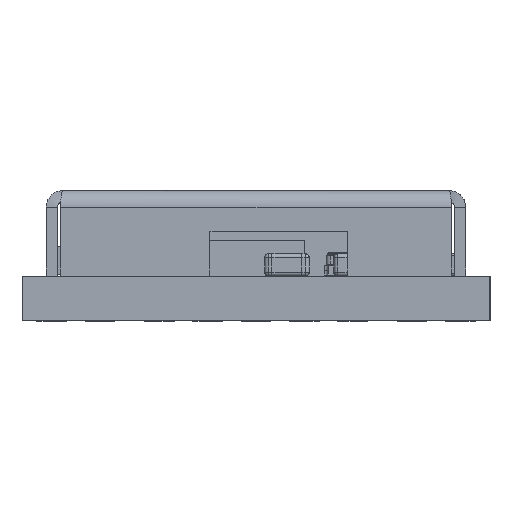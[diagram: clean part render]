
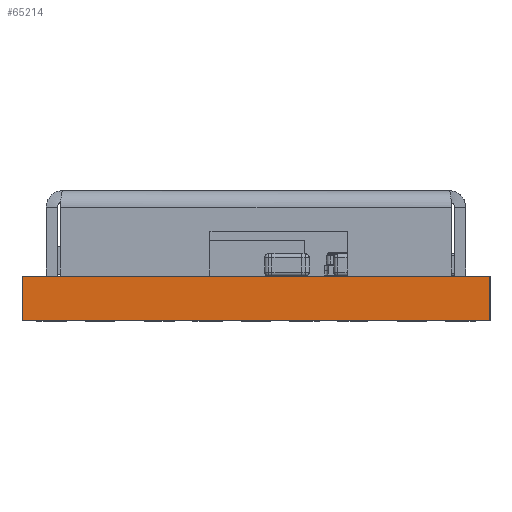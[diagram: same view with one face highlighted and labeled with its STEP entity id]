
A CAD part, left-side view. The second image highlights one B-rep face of the part: STEP entity #65214.
In plain terms, the highlighted planar face has unit normal (-1, 0, 0).
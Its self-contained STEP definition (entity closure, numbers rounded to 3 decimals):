
#374 = LINE ( 'NONE', #38441, #52603 ) ;
#2299 = EDGE_CURVE ( 'NONE', #25542, #36715, #9650, .T. ) ;
#4617 = ORIENTED_EDGE ( 'NONE', *, *, #62889, .T. ) ;
#9152 = DIRECTION ( 'NONE',  ( 0., 0., 1. ) ) ;
#9650 = LINE ( 'NONE', #48350, #51214 ) ;
#11319 = CARTESIAN_POINT ( 'NONE',  ( 0., 0., -0.599 ) ) ;
#14508 = LINE ( 'NONE', #57169, #28066 ) ;
#17529 = CARTESIAN_POINT ( 'NONE',  ( 0., 0., 0. ) ) ;
#18398 = VERTEX_POINT ( 'NONE', #11319 ) ;
#22751 = EDGE_LOOP ( 'NONE', ( #4617, #66078, #35636, #54337 ) ) ;
#25215 = DIRECTION ( 'NONE',  ( -1., 0., 0. ) ) ;
#25542 = VERTEX_POINT ( 'NONE', #38506 ) ;
#27630 = DIRECTION ( 'NONE',  ( 0., 1., 0. ) ) ;
#28066 = VECTOR ( 'NONE', #35835, 1000. ) ;
#31494 = CARTESIAN_POINT ( 'NONE',  ( 0., 0., -0.599 ) ) ;
#33063 = LINE ( 'NONE', #37012, #52666 ) ;
#35636 = ORIENTED_EDGE ( 'NONE', *, *, #2299, .F. ) ;
#35835 = DIRECTION ( 'NONE',  ( 0., 0., 1. ) ) ;
#36715 = VERTEX_POINT ( 'NONE', #47433 ) ;
#37012 = CARTESIAN_POINT ( 'NONE',  ( 0., 0., -0.599 ) ) ;
#38441 = CARTESIAN_POINT ( 'NONE',  ( 0., 0., 0. ) ) ;
#38506 = CARTESIAN_POINT ( 'NONE',  ( 0., 6.3, -0.599 ) ) ;
#47433 = CARTESIAN_POINT ( 'NONE',  ( 0., 6.3, 0. ) ) ;
#48350 = CARTESIAN_POINT ( 'NONE',  ( 0., 6.3, -0.599 ) ) ;
#51214 = VECTOR ( 'NONE', #52304, 1000. ) ;
#51780 = EDGE_CURVE ( 'NONE', #62170, #36715, #374, .T. ) ;
#52304 = DIRECTION ( 'NONE',  ( 0., 0., 1. ) ) ;
#52603 = VECTOR ( 'NONE', #27630, 1000. ) ;
#52666 = VECTOR ( 'NONE', #63594, 1000. ) ;
#54337 = ORIENTED_EDGE ( 'NONE', *, *, #60413, .F. ) ;
#57034 = FACE_OUTER_BOUND ( 'NONE', #22751, .T. ) ;
#57169 = CARTESIAN_POINT ( 'NONE',  ( 0., 0., -0.599 ) ) ;
#60413 = EDGE_CURVE ( 'NONE', #18398, #25542, #33063, .T. ) ;
#62170 = VERTEX_POINT ( 'NONE', #17529 ) ;
#62889 = EDGE_CURVE ( 'NONE', #18398, #62170, #14508, .T. ) ;
#63594 = DIRECTION ( 'NONE',  ( 0., 1., 0. ) ) ;
#65214 = ADVANCED_FACE ( 'NONE', ( #57034 ), #68233, .T. ) ;
#65402 = AXIS2_PLACEMENT_3D ( 'NONE', #31494, #25215, #9152 ) ;
#66078 = ORIENTED_EDGE ( 'NONE', *, *, #51780, .T. ) ;
#68233 = PLANE ( 'NONE',  #65402 ) ;
